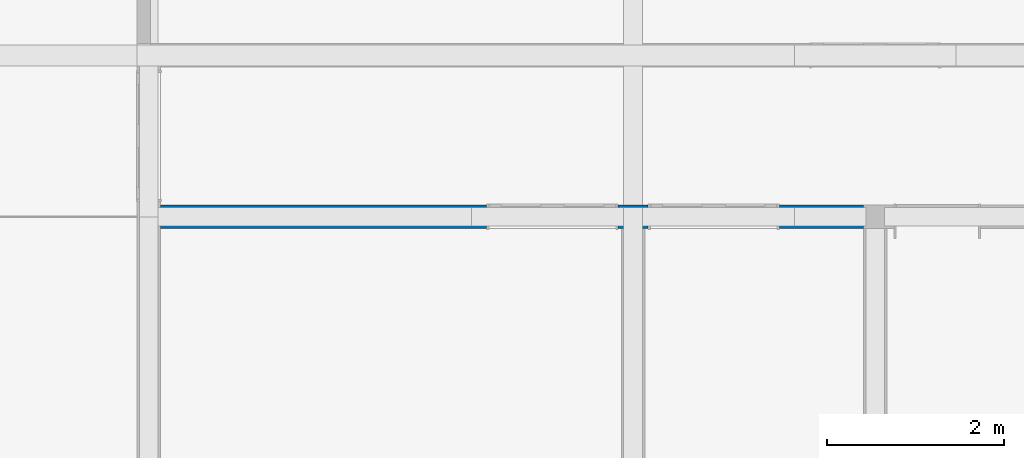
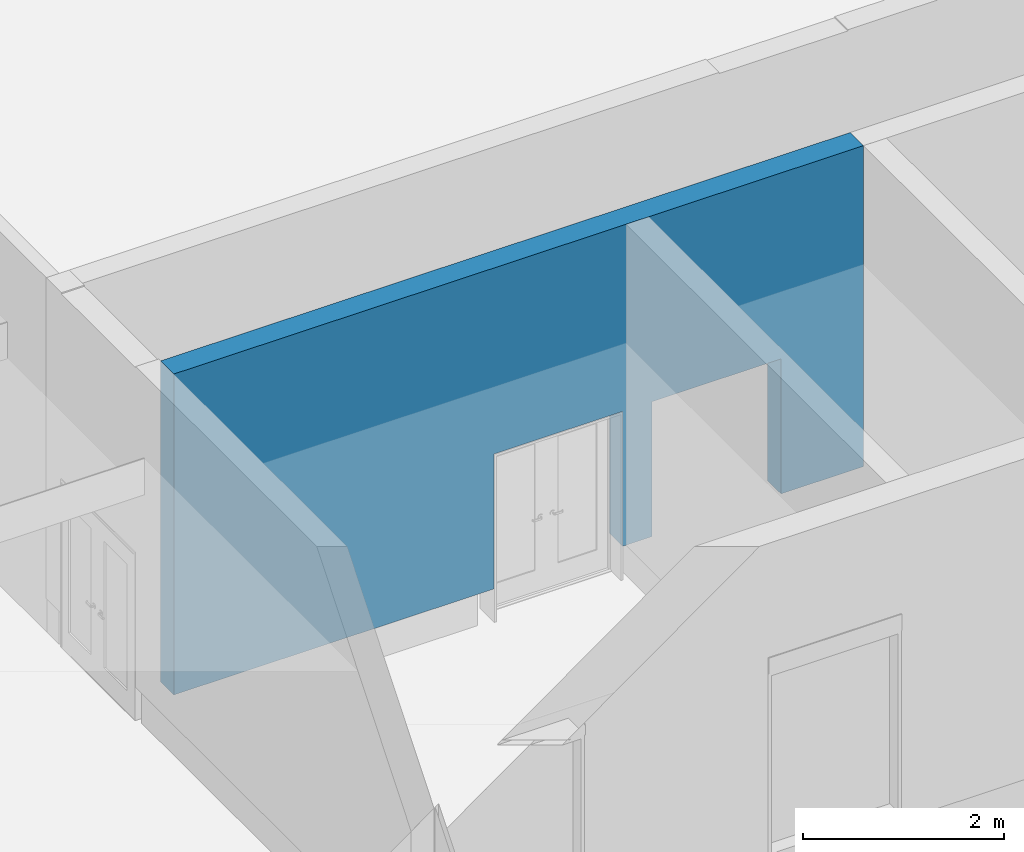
# One storey, part 4 of 22: 1 wall, 2 openings.
"""IFC4X3 building model written with IfcOpenShell, lengths in millimetres."""

from ifc_helpers import new_model, entity, si_unit, converted_unit, derived_unit, direction, frame, frame_2d, origin, place, context, subcontext, project, spatial, rectangle, extrude, material, layer, layer_set, type_object, element, save


model = new_model("IFC4X3")

# Units and contexts
model_context = context("Model", 3, precision=0.01, world=origin(), true_north=direction((6.12303176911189e-17, 1.0)))
body_context = subcontext(model_context, "Body", "Model", "MODEL_VIEW")
ifc_project = project(units=[si_unit("LENGTHUNIT", "METRE", prefix="MILLI"), si_unit("AREAUNIT", "SQUARE_METRE"), si_unit("VOLUMEUNIT", "CUBIC_METRE"), converted_unit("PLANEANGLEUNIT", "DEGREE", entity("IfcPlaneAngleMeasure", 0.0174532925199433), si_unit("PLANEANGLEUNIT", "RADIAN"), dimensions=[0, 0, 0, 0, 0, 0, 0]), si_unit("MASSUNIT", "GRAM", prefix="KILO"), derived_unit("MASSDENSITYUNIT", [(si_unit("MASSUNIT", "GRAM", prefix="KILO"), 1), (si_unit("LENGTHUNIT", "METRE"), -3)]), derived_unit("IONCONCENTRATIONUNIT", [(si_unit("MASSUNIT", "GRAM", prefix="KILO"), 1), (si_unit("LENGTHUNIT", "METRE"), -3)]), derived_unit("MOMENTOFINERTIAUNIT", [(si_unit("LENGTHUNIT", "METRE"), 4)]), si_unit("TIMEUNIT", "SECOND"), si_unit("FREQUENCYUNIT", "HERTZ"), si_unit("THERMODYNAMICTEMPERATUREUNIT", "DEGREE_CELSIUS"), derived_unit("THERMALTRANSMITTANCEUNIT", [(si_unit("MASSUNIT", "GRAM", prefix="KILO"), 1), (si_unit("THERMODYNAMICTEMPERATUREUNIT", "KELVIN"), -1), (si_unit("TIMEUNIT", "SECOND"), -3)]), derived_unit("THERMALCONDUCTANCEUNIT", [(si_unit("MASSUNIT", "GRAM", prefix="KILO"), 1), (si_unit("THERMODYNAMICTEMPERATUREUNIT", "KELVIN"), -1), (si_unit("TIMEUNIT", "SECOND"), -3), (si_unit("LENGTHUNIT", "METRE"), 1)]), derived_unit("VOLUMETRICFLOWRATEUNIT", [(si_unit("LENGTHUNIT", "METRE", prefix="DECI"), 3), (si_unit("TIMEUNIT", "SECOND"), -1)]), derived_unit("MASSFLOWRATEUNIT", [(si_unit("MASSUNIT", "GRAM", prefix="KILO"), 1), (si_unit("TIMEUNIT", "SECOND"), -1)]), derived_unit("ROTATIONALFREQUENCYUNIT", [(si_unit("TIMEUNIT", "SECOND"), -1)]), si_unit("ELECTRICCURRENTUNIT", "AMPERE"), si_unit("ELECTRICVOLTAGEUNIT", "VOLT"), si_unit("POWERUNIT", "WATT"), si_unit("FORCEUNIT", "NEWTON", prefix="KILO"), si_unit("ILLUMINANCEUNIT", "LUX"), si_unit("LUMINOUSFLUXUNIT", "LUMEN"), si_unit("LUMINOUSINTENSITYUNIT", "CANDELA"), si_unit("ENERGYUNIT", "JOULE"), derived_unit("USERDEFINED", [(si_unit("MASSUNIT", "GRAM", prefix="KILO"), -1), (si_unit("LENGTHUNIT", "METRE"), -2), (si_unit("TIMEUNIT", "SECOND"), 3), (si_unit("LUMINOUSFLUXUNIT", "LUMEN"), 1)]), derived_unit("USERDEFINED", [(si_unit("MASSUNIT", "GRAM", prefix="KILO"), 1), (si_unit("TIMEUNIT", "SECOND"), -3), (si_unit("LENGTHUNIT", "METRE"), 3), (si_unit("ELECTRICCURRENTUNIT", "AMPERE"), -2)]), derived_unit("SOUNDPOWERUNIT", [(si_unit("MASSUNIT", "GRAM", prefix="KILO"), 1), (si_unit("TIMEUNIT", "SECOND"), -3), (si_unit("LENGTHUNIT", "METRE"), 2)]), derived_unit("SOUNDPRESSUREUNIT", [(si_unit("MASSUNIT", "GRAM", prefix="KILO"), 1), (si_unit("LENGTHUNIT", "METRE"), -1), (si_unit("TIMEUNIT", "SECOND"), -2)]), derived_unit("LINEARVELOCITYUNIT", [(si_unit("LENGTHUNIT", "METRE"), 1), (si_unit("TIMEUNIT", "SECOND"), -1)]), si_unit("PRESSUREUNIT", "PASCAL"), derived_unit("USERDEFINED", [(si_unit("MASSUNIT", "GRAM", prefix="KILO"), 1), (si_unit("LENGTHUNIT", "METRE"), -2), (si_unit("TIMEUNIT", "SECOND"), -2)]), derived_unit("LINEARFORCEUNIT", [(si_unit("MASSUNIT", "GRAM", prefix="KILO"), 1), (si_unit("TIMEUNIT", "SECOND"), -2)]), derived_unit("PLANARFORCEUNIT", [(si_unit("MASSUNIT", "GRAM", prefix="KILO"), 1), (si_unit("LENGTHUNIT", "METRE"), -1), (si_unit("TIMEUNIT", "SECOND"), -2)]), derived_unit("SPECIFICHEATCAPACITYUNIT", [(si_unit("THERMODYNAMICTEMPERATUREUNIT", "KELVIN"), -1), (si_unit("LENGTHUNIT", "METRE"), 2), (si_unit("TIMEUNIT", "SECOND"), -2)]), derived_unit("HEATFLUXDENSITYUNIT", [(si_unit("MASSUNIT", "GRAM", prefix="KILO"), 1), (si_unit("TIMEUNIT", "SECOND"), -3)]), derived_unit("HEATINGVALUEUNIT", [(si_unit("LENGTHUNIT", "METRE"), 2), (si_unit("TIMEUNIT", "SECOND"), -2)]), derived_unit("VAPORPERMEABILITYUNIT", [(si_unit("LENGTHUNIT", "METRE"), -1), (si_unit("TIMEUNIT", "SECOND"), 1)]), derived_unit("DYNAMICVISCOSITYUNIT", [(si_unit("MASSUNIT", "GRAM", prefix="KILO"), 1), (si_unit("TIMEUNIT", "SECOND"), -1), (si_unit("LENGTHUNIT", "METRE"), -1)]), derived_unit("THERMALEXPANSIONCOEFFICIENTUNIT", [(si_unit("THERMODYNAMICTEMPERATUREUNIT", "KELVIN"), -1)]), derived_unit("MODULUSOFELASTICITYUNIT", [(si_unit("MASSUNIT", "GRAM", prefix="KILO"), 1), (si_unit("LENGTHUNIT", "METRE"), -1), (si_unit("TIMEUNIT", "SECOND"), -2)]), derived_unit("ISOTHERMALMOISTURECAPACITYUNIT", [(si_unit("MASSUNIT", "GRAM", prefix="KILO"), -1), (si_unit("LENGTHUNIT", "METRE"), 3)]), derived_unit("MOISTUREDIFFUSIVITYUNIT", [(si_unit("TIMEUNIT", "SECOND"), -1), (si_unit("LENGTHUNIT", "METRE"), 2)]), derived_unit("AREADENSITYUNIT", [(si_unit("MASSUNIT", "GRAM", prefix="KILO"), 1), (si_unit("LENGTHUNIT", "METRE"), 2)]), derived_unit("MASSPERLENGTHUNIT", [(si_unit("MASSUNIT", "GRAM", prefix="KILO"), 1), (si_unit("LENGTHUNIT", "METRE"), -1)]), derived_unit("THERMALRESISTANCEUNIT", [(si_unit("MASSUNIT", "GRAM", prefix="KILO"), -1), (si_unit("TIMEUNIT", "SECOND"), 3), (si_unit("THERMODYNAMICTEMPERATUREUNIT", "KELVIN"), 1)]), derived_unit("ACCELERATIONUNIT", [(si_unit("LENGTHUNIT", "METRE"), 1), (si_unit("TIMEUNIT", "SECOND"), -2)]), derived_unit("ANGULARVELOCITYUNIT", [(si_unit("TIMEUNIT", "SECOND"), -1), (si_unit("PLANEANGLEUNIT", "RADIAN"), 1)]), derived_unit("LINEARSTIFFNESSUNIT", [(si_unit("MASSUNIT", "GRAM", prefix="KILO"), 1), (si_unit("TIMEUNIT", "SECOND"), -2)]), derived_unit("WARPINGCONSTANTUNIT", [(si_unit("LENGTHUNIT", "METRE"), 6)]), derived_unit("LINEARMOMENTUNIT", [(si_unit("MASSUNIT", "GRAM", prefix="KILO"), 1), (si_unit("LENGTHUNIT", "METRE"), 1), (si_unit("TIMEUNIT", "SECOND"), -2)]), derived_unit("TORQUEUNIT", [(si_unit("MASSUNIT", "GRAM", prefix="KILO"), 1), (si_unit("LENGTHUNIT", "METRE"), 2), (si_unit("TIMEUNIT", "SECOND"), -2)])], contexts=[model_context])

# Site, building, storey
site_placement = place(None, origin())
site = spatial("IfcSite", under=ifc_project, at=site_placement, Name="Default", CompositionType="ELEMENT")
building_placement = place(site_placement, origin())
building = spatial("IfcBuilding", under=site, at=building_placement, Name="事務所ビル", CompositionType="ELEMENT")
storey_placement = place(building_placement, origin())
storey = spatial("IfcBuildingStorey", under=building, at=storey_placement, Name="1FL", CompositionType="ELEMENT", Elevation=0.0)

# Wall, openings
ifc_material_1 = material(Name="せっこうボード", Category="一般")
ifc_layer_1 = layer(ifc_material_1, 15.0, Name="せっこうボード", Category="一般")
ifc_material_2 = material(Name="合板", Category="一般")
ifc_layer_2 = layer(ifc_material_2, 12.0, Name="合板", Category="一般")
ifc_material_3 = material(Name="天然木材", Category="一般")
ifc_layer_3 = layer(ifc_material_3, 210.0, Name="天然木材", Category="一般")
ifc_layer_4 = layer(ifc_material_2, 12.0, Name="合板", Category="一般")
ifc_layer_5 = layer(ifc_material_1, 15.0, Name="せっこうボード", Category="一般")
ifc_layer_set = layer_set([ifc_layer_1, ifc_layer_2, ifc_layer_3, ifc_layer_4, ifc_layer_5], Name="標準壁:GB-R15_構造用合板12_木210_構造用合板12_GB-R15")
wall_type = type_object("IfcWallType", Name="標準壁:GB-R15_構造用合板12_木210_構造用合板12_GB-R15", PredefinedType="STANDARD", material=ifc_layer_set)
wall_placement = place(storey_placement, frame((11052.0, 5460.0, 400.0)))
wall = element("IfcWall", 1, at=wall_placement, inside=storey, type_object=wall_type, material=ifc_layer_set, Name="標準壁:GB-R15_構造用合板12_木210_構造用合板12_GB-R15", ObjectType="標準壁:GB-R15_構造用合板12_木210_構造用合板12_GB-R15", PredefinedType="NOTDEFINED", context=body_context, shape_type="SweptSolid", body=[
    extrude(rectangle(XDim=7926.00000000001, YDim=264.000000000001, at=frame_2d((3963.0, -2.55795384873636e-13), x_axis=(-1.0, 0.0))), origin(), (0.0, 0.0, 1.0), 3900.0),
])
opening_1_placement = place(wall_placement, frame((3678.0, -132.0, -415.0)))
element("IfcOpeningElement", 2, at=opening_1_placement, cuts=wall, Name="鋼製_大枠_両開き_框:1400x2000:1", PredefinedType="OPENING", context=body_context, shape_type="SweptSolid", body=[
    extrude(rectangle(XDim=2055.00000000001, YDim=1480.0, at=frame_2d((1027.5, 739.999999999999), x_axis=(-1.0, 0.0))), frame((0.0, 0.0, 0.0), z_axis=(0.0, 1.0, 0.0), x_axis=(0.0, 0.0, 1.0)), (0.0, 0.0, 1.0), 264.0),
])
opening_2_placement = place(wall_placement, frame((5498.0, -132.0, -415.0)))
element("IfcOpeningElement", 3, at=opening_2_placement, cuts=wall, Name="鋼製_大枠_両開き_框:1400x2000:1", PredefinedType="OPENING", context=body_context, shape_type="SweptSolid", body=[
    extrude(rectangle(XDim=2055.00000000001, YDim=1480.0, at=frame_2d((1027.5, 739.999999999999), x_axis=(-1.0, 0.0))), frame((0.0, 0.0, 0.0), z_axis=(0.0, 1.0, 0.0), x_axis=(0.0, 0.0, 1.0)), (0.0, 0.0, 1.0), 264.0),
])

save(model, "model.ifc")
